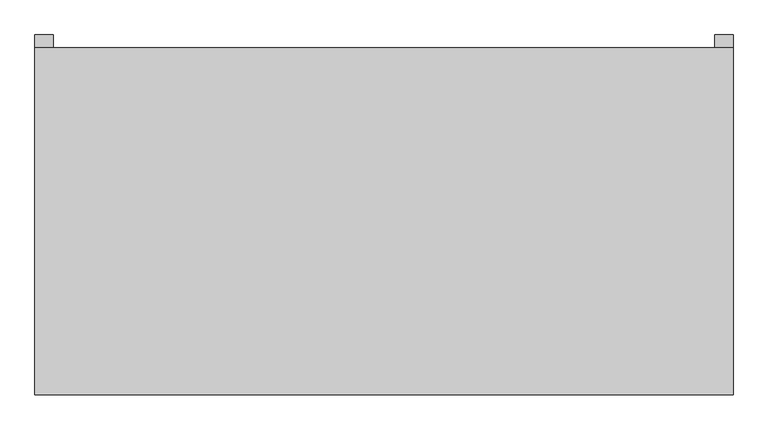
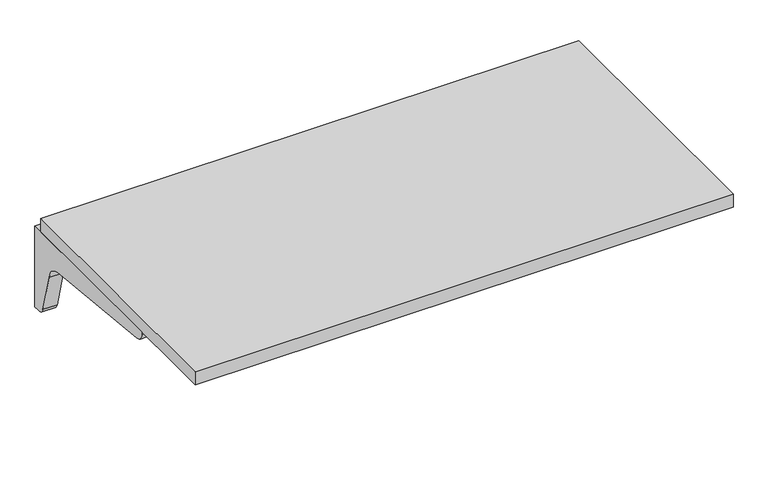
"""IFC4 building model written with IfcOpenShell, lengths in millimetres: furniture geometry."""

from ifc_helpers import new_model, si_unit, point, frame, frame_2d, origin, place, context, project, spatial, polyline, circle_curve, trimmed, segment, composite_curve, outline, extrude, source, transform, mapped, element, save


def furniture_083a197f(model_context):
    return source(origin(), model_context, "Body", "SweptSolid", [
        extrude(outline(composite_curve([segment(polyline([(314.325, 704.85), (314.325, 511.175), (301.625, 511.175)]), True, "CONTINUOUS"), segment(trimmed(circle_curve(frame_2d((299.3081081, 528.3371622)), 17.3178462), [point((301.625, 511.175))], [point((282.575, 523.875))], False, "CARTESIAN"), True, "CONTINUOUS"), segment(polyline([(282.575, 523.875), (257.175, 615.95)]), True, "CONTINUOUS"), segment(trimmed(circle_curve(frame_2d((221.8170455, 612.3420455)), 35.5415572), [point((257.175, 615.95))], [point((225.425, 647.7))], True, "CARTESIAN"), True, "CONTINUOUS"), segment(polyline([(225.425, 647.7), (-85.725, 679.45)]), True, "CONTINUOUS"), segment(trimmed(circle_curve(frame_2d((-85.725, 698.5)), 19.05), [point((-85.725, 679.45))], [point((-104.775, 698.5))], False, "CARTESIAN"), True, "CONTINUOUS"), segment(polyline([(-104.775, 698.5), (-104.775, 704.85), (314.325, 704.85)]), True, "CONTINUOUS")], self_intersect=False)), frame((577.85, 0.0, 0.0), z_axis=(1.0, 0.0, 0.0), x_axis=(0.0, 1.0, 0.0)), (0.0, 0.0, 1.0), 31.75),
        extrude(outline(composite_curve([segment(polyline([(314.325, 704.85), (314.325, 511.175), (301.625, 511.175)]), True, "CONTINUOUS"), segment(trimmed(circle_curve(frame_2d((299.3081081, 528.3371622)), 17.3178462), [point((301.625, 511.175))], [point((282.575, 523.875))], False, "CARTESIAN"), True, "CONTINUOUS"), segment(polyline([(282.575, 523.875), (257.175, 615.95)]), True, "CONTINUOUS"), segment(trimmed(circle_curve(frame_2d((221.8170455, 612.3420455)), 35.5415572), [point((257.175, 615.95))], [point((225.425, 647.7))], True, "CARTESIAN"), True, "CONTINUOUS"), segment(polyline([(225.425, 647.7), (-85.725, 679.45)]), True, "CONTINUOUS"), segment(trimmed(circle_curve(frame_2d((-85.725, 698.5)), 19.05), [point((-85.725, 679.45))], [point((-104.775, 698.5))], False, "CARTESIAN"), True, "CONTINUOUS"), segment(polyline([(-104.775, 698.5), (-104.775, 704.85), (314.325, 704.85)]), True, "CONTINUOUS")], self_intersect=False)), frame((-609.6, 0.0, 0.0), z_axis=(1.0, 0.0, 0.0), x_axis=(0.0, 1.0, 0.0)), (0.0, 0.0, 1.0), 31.75),
        extrude(outline(polyline([(-609.6, 292.1), (609.6, 292.1), (609.6, -314.325), (-609.6, -314.325), (-609.6, 292.1)])), frame((0.0, 0.0, 704.85), z_axis=(0.0, 0.0, 1.0), x_axis=(1.0, 0.0, 0.0)), (0.0, 0.0, 1.0), 31.75),
    ])


if __name__ == "__main__":
    model = new_model("IFC4")
    model_context = context("Model", 3, world=origin())
    ifc_project = project(units=[si_unit("LENGTHUNIT", "METRE", prefix="MILLI")], contexts=[model_context])
    site = spatial("IfcSite", under=ifc_project)
    building = spatial("IfcBuilding", under=site)
    placement = place(None, origin())
    furniture_shape = furniture_083a197f(model_context)
    element("IfcFurniture", 1, ObjectType="HermanMiller_ActionOffice_A2310_Sq-EdgeRectangularWorkSurface : 24\"D x 48\"W", at=placement, inside=building, context=model_context, shape_type="MappedRepresentation", body=[
        mapped(furniture_shape, transform((0.0, 0.0, 0.0), x_axis=(1.0, 0.0, 0.0), y_axis=(0.0, 1.0, 0.0), z_axis=(0.0, 0.0, 1.0))),
    ])
    save(model, "model.ifc")
